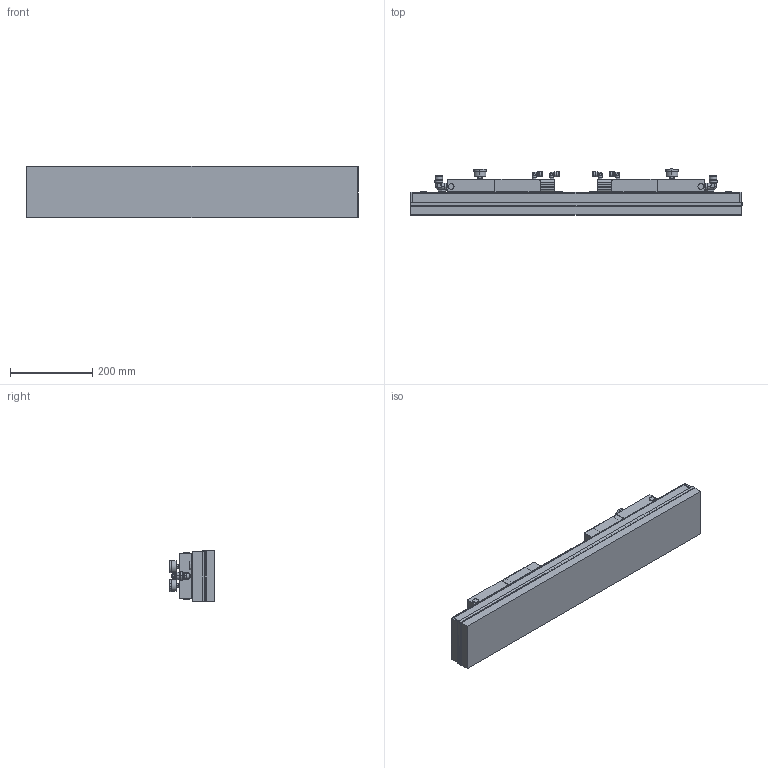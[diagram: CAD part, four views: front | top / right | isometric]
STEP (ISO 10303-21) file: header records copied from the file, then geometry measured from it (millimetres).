
FILE_DESCRIPTION (( 'STEP AP214' ), '1' );
FILE_NAME ('3-9-19455.STEP', '2012-08-31T08:13:31', ( 'cad' ), ( 'Microsoft' ), 'SwSTEP 2.0', 'SolidWorks 2012', '' );
FILE_SCHEMA (( 'AUTOMOTIVE_DESIGN' ));
Length unit declared in the file: millimetre
Products named in the file (1): 3-9-19455
Bounding box: 806 x 111.5 x 126 mm (x, y, z)
Volume: 6687287.4 mm3; surface area: 549086.1 mm2
Topology: 1 solids, 1 shells, 1336 faces, 3352 edges, 2090 vertices
Faces by surface type: plane 760, cylinder 390, cone 168, sphere 10, bspline 8
Entity records: 51548 total; most frequent: CARTESIAN_POINT 8031, DIRECTION 6846, ORIENTED_EDGE 6704, EDGE_CURVE 3352, AXIS2_PLACEMENT_3D 2361, LINE 2124, VECTOR 2124, VERTEX_POINT 2090
